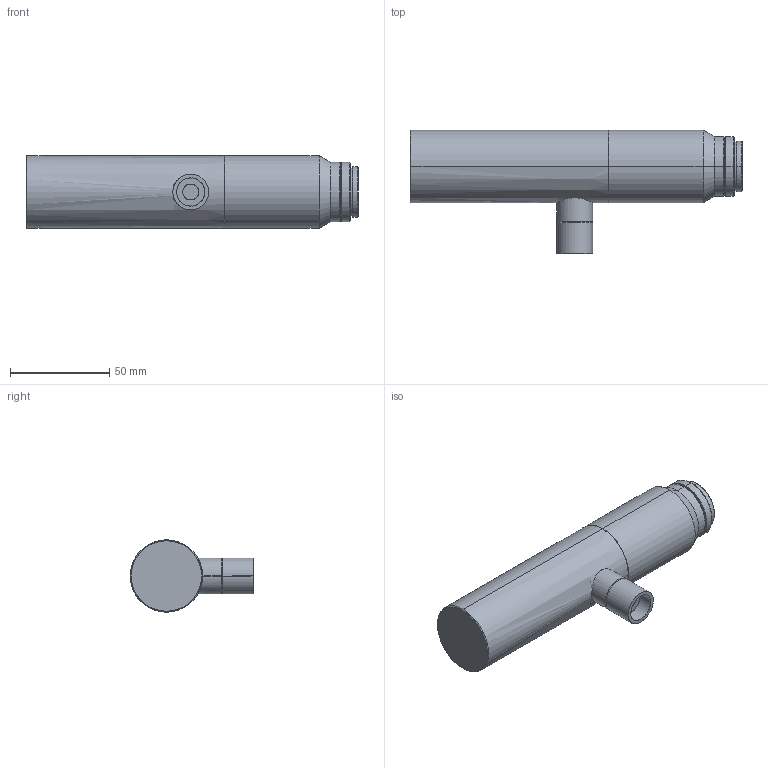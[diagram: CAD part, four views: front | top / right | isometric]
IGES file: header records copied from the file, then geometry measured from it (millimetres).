
Start section: SolidWorks IGES file using analytic representation for surfaces
Bounding box: 167.3 x 62.3 x 36.5 mm (x, y, z)
Surface area: 22838.1 mm2 (no closed solid volume)
Topology: 0 solids, 0 shells, 54 faces, 870 edges, 870 vertices
Faces by surface type: revolution 46, bspline 8
